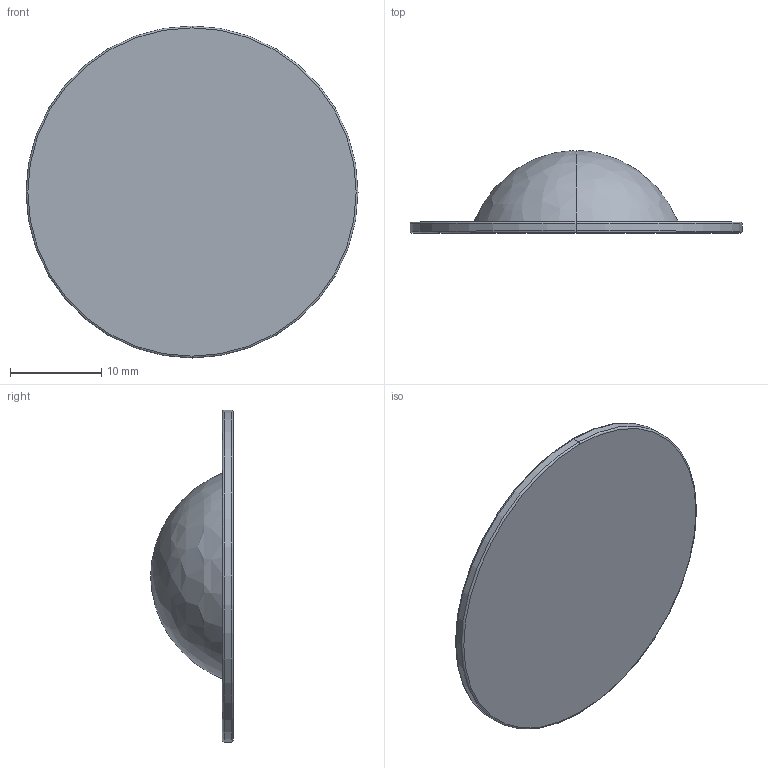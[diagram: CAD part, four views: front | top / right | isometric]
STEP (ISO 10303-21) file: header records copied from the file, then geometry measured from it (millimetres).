
FILE_DESCRIPTION (( 'STEP AP203' ), '1' );
FILE_NAME ('001-022-142+10.STEP', '2022-05-18T20:28:24', ( '' ), ( '' ), 'SwSTEP 2.0', 'SolidWorks 2020', '' );
FILE_SCHEMA (( 'CONFIG_CONTROL_DESIGN' ));
Length unit declared in the file: millimetre
Products named in the file (1): 001-022-142+10
Bounding box: 36.3 x 9.01 x 36.3 mm (x, y, z)
Volume: 2935.7 mm3; surface area: 2396.8 mm2
Topology: 1 solids, 1 shells, 13 faces, 26 edges, 15 vertices
Faces by surface type: torus 6, plane 3, bspline 2, cylinder 2
Entity records: 433 total; most frequent: CARTESIAN_POINT 89, DIRECTION 66, ORIENTED_EDGE 48, AXIS2_PLACEMENT_3D 32, EDGE_CURVE 24, CIRCLE 20, VERTEX_POINT 15, EDGE_LOOP 15
